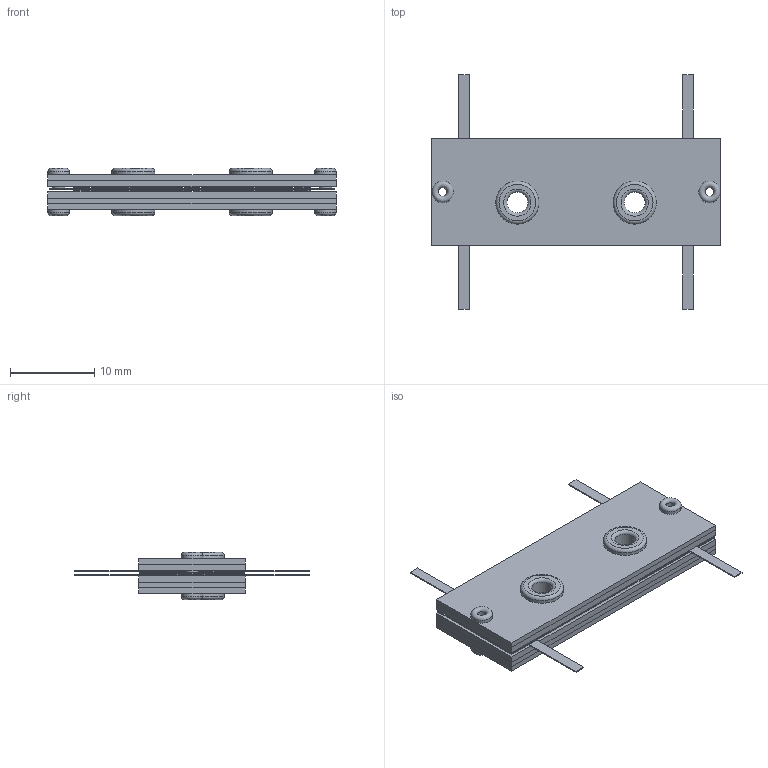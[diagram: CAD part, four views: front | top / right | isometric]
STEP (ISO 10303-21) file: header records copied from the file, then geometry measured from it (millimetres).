
FILE_DESCRIPTION(/* description */ (''),/* implementation_level */ '2;1');
FILE_NAME(/* name */ 'IPP-2026.stp',/* time_stamp */ '2026-10-09T11:33:44-04:00',/* author */ ('dguiffre'),/* organization */ (''),/* preprocessor_version */ 'ST-DEVELOPER v20',/* originating_system */ 'Autodesk Inventor 2025',/* authorisation */ '');
FILE_SCHEMA (('AUTOMOTIVE_DESIGN { 1 0 10303 214 3 1 1 }'));
Length unit declared in the file: inch
Products named in the file (7): IPP-2026; IPP-2026-1; LD-0002; INS-0006-2; PLT-0003; eyelet_1; eyelet_10
Assembly tree (18 placements, depth 2):
  IPP-2026
    IPP-2026-1
    LD-0002  x4
    INS-0006-2  x2
    PLT-0003  x3
    eyelet_1  x4
    eyelet_10  x4
Bounding box: 34.32 x 27.94 x 5.62 mm (x, y, z)
Volume: 1612.7 mm3; surface area: 5977.8 mm2
Topology: 18 solids, 18 shells, 346 faces, 896 edges, 592 vertices
Faces by surface type: plane 286, cylinder 48, torus 12
Full cylindrical faces by diameter (mm): 1.041 x4, 1.499 x4, 1.727 x12, 2.464 x4, 2.565 x4, 3.15 x4, 3.175 x12, 5.131 x4
Entity records: 8835 total; most frequent: CARTESIAN_POINT 1478, ORIENTED_EDGE 1438, DIRECTION 1322, EDGE_CURVE 719, LINE 678, VECTOR 678, VERTEX_POINT 478, AXIS2_PLACEMENT_3D 322
